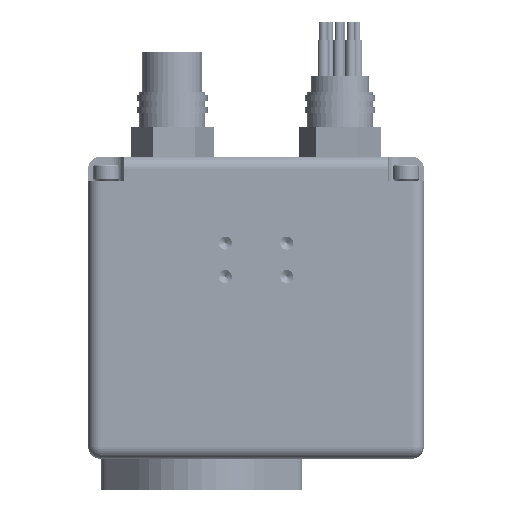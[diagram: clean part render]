
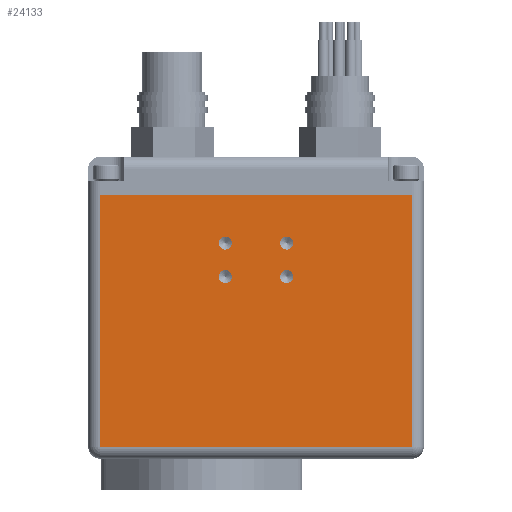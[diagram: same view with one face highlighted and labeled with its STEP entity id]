
A CAD part, front view. The second image highlights one B-rep face of the part: STEP entity #24133.
In plain terms, the highlighted planar face has unit normal (0, -1, 0).
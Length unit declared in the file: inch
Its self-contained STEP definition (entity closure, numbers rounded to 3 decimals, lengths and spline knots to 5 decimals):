
#3985 = DIRECTION ( 'NONE',  ( 0., -1., 0. ) ) ;
#4887 = VERTEX_POINT ( 'NONE', #48684 ) ;
#5667 = ORIENTED_EDGE ( 'NONE', *, *, #6730, .F. ) ;
#5768 = CIRCLE ( 'NONE', #61645, 0.068 ) ;
#6144 = VERTEX_POINT ( 'NONE', #31149 ) ;
#6730 = EDGE_CURVE ( 'NONE', #28952, #6144, #26819, .T. ) ;
#7288 = EDGE_CURVE ( 'NONE', #66562, #26864, #24708, .T. ) ;
#9392 = AXIS2_PLACEMENT_3D ( 'NONE', #30504, #75597, #36991 ) ;
#10219 = ORIENTED_EDGE ( 'NONE', *, *, #82063, .F. ) ;
#11097 = CIRCLE ( 'NONE', #22529, 0.068 ) ;
#13246 = ORIENTED_EDGE ( 'NONE', *, *, #59371, .T. ) ;
#14112 = FACE_BOUND ( 'NONE', #64520, .T. ) ;
#16047 = CARTESIAN_POINT ( 'NONE',  ( 1.625, -1.25, 2.75 ) ) ;
#16133 = FACE_BOUND ( 'NONE', #34423, .T. ) ;
#16462 = VERTEX_POINT ( 'NONE', #43130 ) ;
#20422 = DIRECTION ( 'NONE',  ( 1., 0., 0. ) ) ;
#22529 = AXIS2_PLACEMENT_3D ( 'NONE', #30704, #75803, #37214 ) ;
#22823 = EDGE_CURVE ( 'NONE', #24539, #4887, #63560, .T. ) ;
#23911 = EDGE_CURVE ( 'NONE', #16462, #33938, #11097, .T. ) ;
#23932 = EDGE_LOOP ( 'NONE', ( #10219, #24284 ) ) ;
#24133 = ADVANCED_FACE ( 'NONE', ( #82705, #65530, #16133, #14112, #80668 ), #46250, .F. ) ;
#24267 = AXIS2_PLACEMENT_3D ( 'NONE', #42665, #3985, #49175 ) ;
#24284 = ORIENTED_EDGE ( 'NONE', *, *, #22823, .F. ) ;
#24362 = CARTESIAN_POINT ( 'NONE',  ( -0.32, -1.25, 1.832 ) ) ;
#24539 = VERTEX_POINT ( 'NONE', #45345 ) ;
#24708 = LINE ( 'NONE', #83742, #39897 ) ;
#24922 = ORIENTED_EDGE ( 'NONE', *, *, #67994, .F. ) ;
#25403 = CARTESIAN_POINT ( 'NONE',  ( -0.32, -1.25, 2.25 ) ) ;
#25425 = LINE ( 'NONE', #42094, #57686 ) ;
#26624 = CARTESIAN_POINT ( 'NONE',  ( -1.75, -1.25, 2.75 ) ) ;
#26819 = CIRCLE ( 'NONE', #9392, 0.068 ) ;
#26864 = VERTEX_POINT ( 'NONE', #58235 ) ;
#27014 = DIRECTION ( 'NONE',  ( 0., 0., 1. ) ) ;
#27359 = DIRECTION ( 'NONE',  ( 0., -1., 0. ) ) ;
#28952 = VERTEX_POINT ( 'NONE', #24362 ) ;
#30154 = VERTEX_POINT ( 'NONE', #32445 ) ;
#30244 = EDGE_CURVE ( 'NONE', #6144, #28952, #59856, .T. ) ;
#30331 = CARTESIAN_POINT ( 'NONE',  ( 0.32, -1.25, 1.9 ) ) ;
#30504 = CARTESIAN_POINT ( 'NONE',  ( -0.32, -1.25, 1.9 ) ) ;
#30704 = CARTESIAN_POINT ( 'NONE',  ( -0.32, -1.25, 2.25 ) ) ;
#31149 = CARTESIAN_POINT ( 'NONE',  ( -0.32, -1.25, 1.968 ) ) ;
#31359 = EDGE_CURVE ( 'NONE', #30154, #66562, #25425, .T. ) ;
#31488 = ORIENTED_EDGE ( 'NONE', *, *, #23911, .F. ) ;
#31893 = DIRECTION ( 'NONE',  ( 0., 0., -1. ) ) ;
#32154 = DIRECTION ( 'NONE',  ( 1., 0., 0. ) ) ;
#32445 = CARTESIAN_POINT ( 'NONE',  ( -1.625, -1.25, 2.75 ) ) ;
#33500 = VECTOR ( 'NONE', #60628, 39.37008 ) ;
#33927 = AXIS2_PLACEMENT_3D ( 'NONE', #78315, #65602, #27014 ) ;
#33938 = VERTEX_POINT ( 'NONE', #64335 ) ;
#34423 = EDGE_LOOP ( 'NONE', ( #51728, #31488 ) ) ;
#35454 = CARTESIAN_POINT ( 'NONE',  ( 0.32, -1.25, 2.25 ) ) ;
#36814 = DIRECTION ( 'NONE',  ( 0., 0., -1. ) ) ;
#36991 = DIRECTION ( 'NONE',  ( 0., 0., -1. ) ) ;
#37214 = DIRECTION ( 'NONE',  ( 0., 0., -1. ) ) ;
#38521 = DIRECTION ( 'NONE',  ( 0., -1., 0. ) ) ;
#39897 = VECTOR ( 'NONE', #32154, 39.37008 ) ;
#41932 = DIRECTION ( 'NONE',  ( 0., 0., -1. ) ) ;
#42094 = CARTESIAN_POINT ( 'NONE',  ( -1.625, -1.25, 2.75 ) ) ;
#42665 = CARTESIAN_POINT ( 'NONE',  ( 0.32, -1.25, 1.9 ) ) ;
#43130 = CARTESIAN_POINT ( 'NONE',  ( -0.32, -1.25, 2.318 ) ) ;
#43178 = ORIENTED_EDGE ( 'NONE', *, *, #31359, .T. ) ;
#44854 = VECTOR ( 'NONE', #20422, 39.37008 ) ;
#45162 = CIRCLE ( 'NONE', #76497, 0.068 ) ;
#45345 = CARTESIAN_POINT ( 'NONE',  ( 0.32, -1.25, 2.318 ) ) ;
#46250 = PLANE ( 'NONE',  #33927 ) ;
#48684 = CARTESIAN_POINT ( 'NONE',  ( 0.32, -1.25, 2.182 ) ) ;
#49175 = DIRECTION ( 'NONE',  ( 0., 0., -1. ) ) ;
#49251 = ORIENTED_EDGE ( 'NONE', *, *, #71615, .F. ) ;
#49281 = EDGE_LOOP ( 'NONE', ( #78197, #13246, #49251, #43178 ) ) ;
#50643 = LINE ( 'NONE', #79848, #33500 ) ;
#51728 = ORIENTED_EDGE ( 'NONE', *, *, #72092, .F. ) ;
#53411 = CARTESIAN_POINT ( 'NONE',  ( 0.32, -1.25, 1.968 ) ) ;
#54290 = CARTESIAN_POINT ( 'NONE',  ( -1.625, -1.25, 0.125 ) ) ;
#57686 = VECTOR ( 'NONE', #74182, 39.37008 ) ;
#57769 = AXIS2_PLACEMENT_3D ( 'NONE', #65937, #27359, #72430 ) ;
#58235 = CARTESIAN_POINT ( 'NONE',  ( 1.625, -1.25, 0.125 ) ) ;
#59371 = EDGE_CURVE ( 'NONE', #26864, #64504, #50643, .T. ) ;
#59856 = CIRCLE ( 'NONE', #57769, 0.068 ) ;
#60518 = VERTEX_POINT ( 'NONE', #68063 ) ;
#60628 = DIRECTION ( 'NONE',  ( 0., 0., 1. ) ) ;
#61645 = AXIS2_PLACEMENT_3D ( 'NONE', #30331, #75410, #36814 ) ;
#61822 = CIRCLE ( 'NONE', #63359, 0.068 ) ;
#62821 = EDGE_CURVE ( 'NONE', #67865, #60518, #5768, .T. ) ;
#63359 = AXIS2_PLACEMENT_3D ( 'NONE', #25403, #70496, #31893 ) ;
#63560 = CIRCLE ( 'NONE', #82433, 0.068 ) ;
#63617 = ORIENTED_EDGE ( 'NONE', *, *, #30244, .F. ) ;
#64335 = CARTESIAN_POINT ( 'NONE',  ( -0.32, -1.25, 2.182 ) ) ;
#64504 = VERTEX_POINT ( 'NONE', #16047 ) ;
#64520 = EDGE_LOOP ( 'NONE', ( #24922, #75626 ) ) ;
#65530 = FACE_BOUND ( 'NONE', #23932, .T. ) ;
#65602 = DIRECTION ( 'NONE',  ( 0., 1., 0. ) ) ;
#65937 = CARTESIAN_POINT ( 'NONE',  ( -0.32, -1.25, 1.9 ) ) ;
#66562 = VERTEX_POINT ( 'NONE', #54290 ) ;
#67865 = VERTEX_POINT ( 'NONE', #53411 ) ;
#67994 = EDGE_CURVE ( 'NONE', #60518, #67865, #74451, .T. ) ;
#68063 = CARTESIAN_POINT ( 'NONE',  ( 0.32, -1.25, 1.832 ) ) ;
#70496 = DIRECTION ( 'NONE',  ( 0., -1., 0. ) ) ;
#71615 = EDGE_CURVE ( 'NONE', #30154, #64504, #81128, .T. ) ;
#72092 = EDGE_CURVE ( 'NONE', #33938, #16462, #61822, .T. ) ;
#72430 = DIRECTION ( 'NONE',  ( 0., 0., -1. ) ) ;
#74182 = DIRECTION ( 'NONE',  ( 0., 0., -1. ) ) ;
#74451 = CIRCLE ( 'NONE', #24267, 0.068 ) ;
#75410 = DIRECTION ( 'NONE',  ( 0., -1., 0. ) ) ;
#75597 = DIRECTION ( 'NONE',  ( 0., -1., 0. ) ) ;
#75626 = ORIENTED_EDGE ( 'NONE', *, *, #62821, .F. ) ;
#75803 = DIRECTION ( 'NONE',  ( 0., -1., 0. ) ) ;
#76497 = AXIS2_PLACEMENT_3D ( 'NONE', #35454, #80527, #41932 ) ;
#77105 = CARTESIAN_POINT ( 'NONE',  ( 0.32, -1.25, 2.25 ) ) ;
#78197 = ORIENTED_EDGE ( 'NONE', *, *, #7288, .T. ) ;
#78315 = CARTESIAN_POINT ( 'NONE',  ( -1.75, -1.25, 2.75 ) ) ;
#79848 = CARTESIAN_POINT ( 'NONE',  ( 1.625, -1.25, 2.75 ) ) ;
#80527 = DIRECTION ( 'NONE',  ( 0., -1., 0. ) ) ;
#80668 = FACE_OUTER_BOUND ( 'NONE', #49281, .T. ) ;
#81128 = LINE ( 'NONE', #26624, #44854 ) ;
#82063 = EDGE_CURVE ( 'NONE', #4887, #24539, #45162, .T. ) ;
#82433 = AXIS2_PLACEMENT_3D ( 'NONE', #77105, #38521, #83599 ) ;
#82705 = FACE_BOUND ( 'NONE', #83413, .T. ) ;
#83413 = EDGE_LOOP ( 'NONE', ( #5667, #63617 ) ) ;
#83599 = DIRECTION ( 'NONE',  ( 0., 0., -1. ) ) ;
#83742 = CARTESIAN_POINT ( 'NONE',  ( 1.75, -1.25, 0.125 ) ) ;
